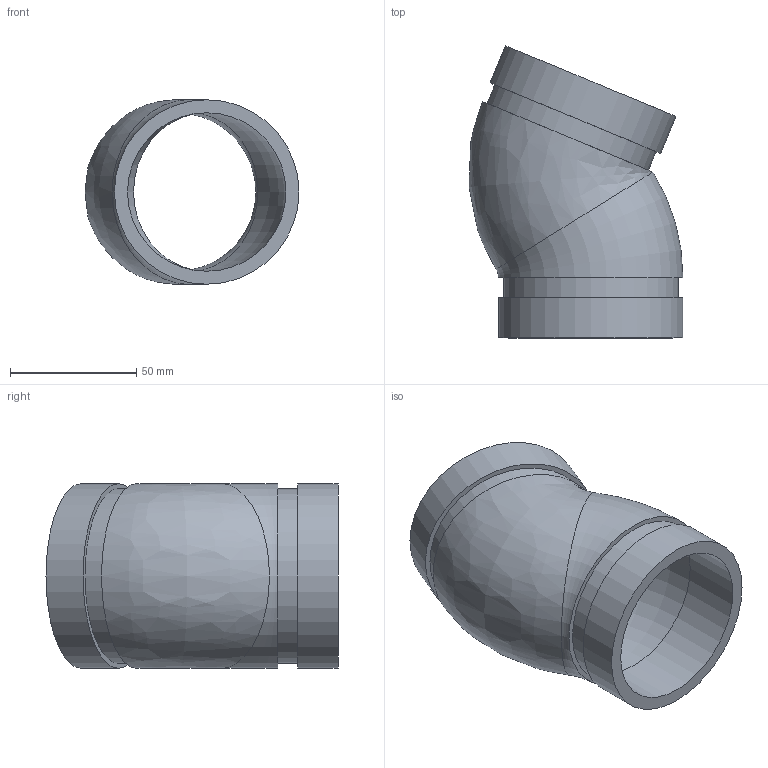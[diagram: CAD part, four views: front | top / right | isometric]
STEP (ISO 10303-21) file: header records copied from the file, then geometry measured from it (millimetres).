
FILE_DESCRIPTION(/* description */ ('VIC ELBOW 22 1/2 DEG GOOSENECK No 12 (OGS)','CAx-IF Rec.Pracs.---Representation and Presentation of Product Manufacturing Information (PMI)---4.0---2014-10-13'),/* implementation_level */ '2;1');
FILE_NAME(/* name */ 'C:\Users\Vjadhav\Desktop\CAD for Inventor\1\12\STEP\Victaulic_IPS_Elbow 22.5 Deg Gooseneck_No 12 (OGS)\Victaulic_IPS_Elbow 22.5 Deg Gooseneck_No 12 (OGS)_2.5 (65).stp',/* time_stamp */ '2021-12-22T09:18:36+06:00',/* author */ ('Aayare'),/* organization */ ('Victaulic'),/* preprocessor_version */ 'ST-DEVELOPER v17.2',/* originating_system */ 'Autodesk Inventor 2019',/* authorisation */ '');
FILE_SCHEMA (('AP242_MANAGED_MODEL_BASED_3D_ENGINEERING_MIM_LF { 1 0 10303 442 1 1 4 }'));
Length unit declared in the file: inch
Products named in the file (1): GN12-02.5
Bounding box: 84.68 x 115.57 x 73.03 mm (x, y, z)
Volume: 111102.4 mm3; surface area: 48982.8 mm2
Topology: 1 solids, 1 shells, 16 faces, 43 edges, 31 vertices
Faces by surface type: plane 6, cylinder 6, torus 3, bspline 1
Full cylindrical faces by diameter (mm): 62.713 x2, 69.088 x2, 73.025 x2
Entity records: 702 total; most frequent: DIRECTION 134, CARTESIAN_POINT 132, ORIENTED_EDGE 82, AXIS2_PLACEMENT_3D 64, EDGE_CURVE 41, CIRCLE 35, VERTEX_POINT 31, EDGE_LOOP 22
